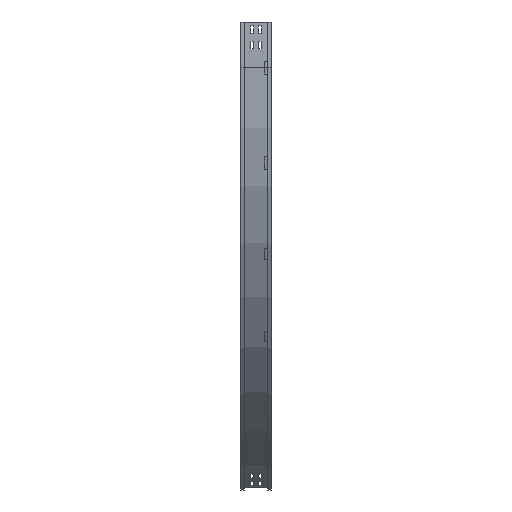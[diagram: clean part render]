
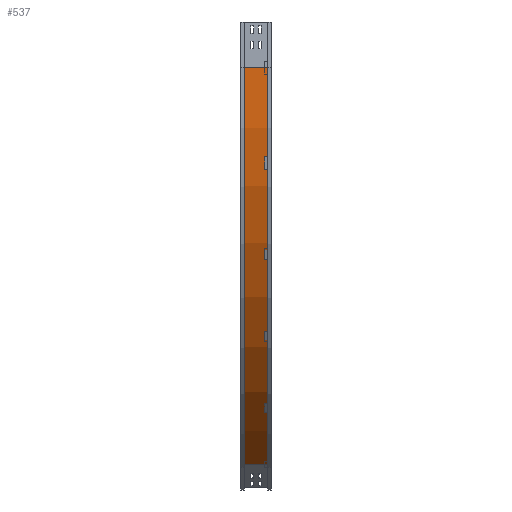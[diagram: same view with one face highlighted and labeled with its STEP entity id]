
A CAD part, left-side view. The second image highlights one B-rep face of the part: STEP entity #537.
In plain terms, the highlighted cylindrical face has radius 1500 mm (diameter 3000 mm), a partial arc.
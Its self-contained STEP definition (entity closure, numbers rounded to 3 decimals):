
#161 = ORIENTED_EDGE ( 'NONE', *, *, #3360, .F. ) ;
#232 = EDGE_CURVE ( 'NONE', #2976, #1560, #636, .T. ) ;
#247 = FACE_OUTER_BOUND ( 'NONE', #4376, .T. ) ;
#277 = CIRCLE ( 'NONE', #3706, 1500. ) ;
#537 = ADVANCED_FACE ( 'NONE', ( #247 ), #1556, .T. ) ;
#636 = LINE ( 'NONE', #3142, #2847 ) ;
#704 = CARTESIAN_POINT ( 'NONE',  ( 9., 88., -150. ) ) ;
#1072 = CARTESIAN_POINT ( 'NONE',  ( 1509., 12., -150. ) ) ;
#1174 = EDGE_CURVE ( 'NONE', #2789, #4140, #3798, .T. ) ;
#1260 = EDGE_CURVE ( 'NONE', #2976, #2789, #2041, .T. ) ;
#1314 = AXIS2_PLACEMENT_3D ( 'NONE', #1635, #2625, #1877 ) ;
#1556 = CYLINDRICAL_SURFACE ( 'NONE', #1314, 1500. ) ;
#1560 = VERTEX_POINT ( 'NONE', #2810 ) ;
#1608 = CARTESIAN_POINT ( 'NONE',  ( 759., 12., -1449.038 ) ) ;
#1635 = CARTESIAN_POINT ( 'NONE',  ( 1509., 0., -150. ) ) ;
#1877 = DIRECTION ( 'NONE',  ( 0., 0., -1. ) ) ;
#2006 = ORIENTED_EDGE ( 'NONE', *, *, #232, .F. ) ;
#2041 = CIRCLE ( 'NONE', #3564, 1500. ) ;
#2103 = DIRECTION ( 'NONE',  ( -1., 0., 0. ) ) ;
#2276 = CARTESIAN_POINT ( 'NONE',  ( 1509., 88., -150. ) ) ;
#2538 = DIRECTION ( 'NONE',  ( 0., -1., 0. ) ) ;
#2625 = DIRECTION ( 'NONE',  ( 0., -1., 0. ) ) ;
#2789 = VERTEX_POINT ( 'NONE', #3959 ) ;
#2810 = CARTESIAN_POINT ( 'NONE',  ( 9., 12., -150. ) ) ;
#2847 = VECTOR ( 'NONE', #3120, 1000. ) ;
#2853 = DIRECTION ( 'NONE',  ( 0., -1., 0. ) ) ;
#2976 = VERTEX_POINT ( 'NONE', #704 ) ;
#3120 = DIRECTION ( 'NONE',  ( 0., -1., 0. ) ) ;
#3142 = CARTESIAN_POINT ( 'NONE',  ( 9., 12., -150. ) ) ;
#3188 = DIRECTION ( 'NONE',  ( -1., 0., 0. ) ) ;
#3360 = EDGE_CURVE ( 'NONE', #1560, #4140, #277, .T. ) ;
#3564 = AXIS2_PLACEMENT_3D ( 'NONE', #2276, #2538, #3188 ) ;
#3641 = VECTOR ( 'NONE', #4205, 1000. ) ;
#3706 = AXIS2_PLACEMENT_3D ( 'NONE', #1072, #2853, #2103 ) ;
#3798 = LINE ( 'NONE', #3844, #3641 ) ;
#3844 = CARTESIAN_POINT ( 'NONE',  ( 759., 12., -1449.038 ) ) ;
#3959 = CARTESIAN_POINT ( 'NONE',  ( 759., 88., -1449.038 ) ) ;
#4029 = ORIENTED_EDGE ( 'NONE', *, *, #1260, .T. ) ;
#4140 = VERTEX_POINT ( 'NONE', #1608 ) ;
#4205 = DIRECTION ( 'NONE',  ( 0., -1., 0. ) ) ;
#4376 = EDGE_LOOP ( 'NONE', ( #161, #2006, #4029, #4416 ) ) ;
#4416 = ORIENTED_EDGE ( 'NONE', *, *, #1174, .T. ) ;
